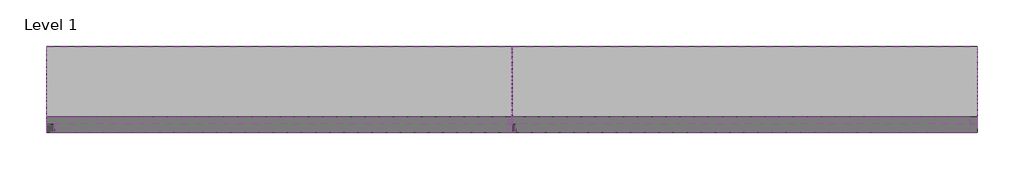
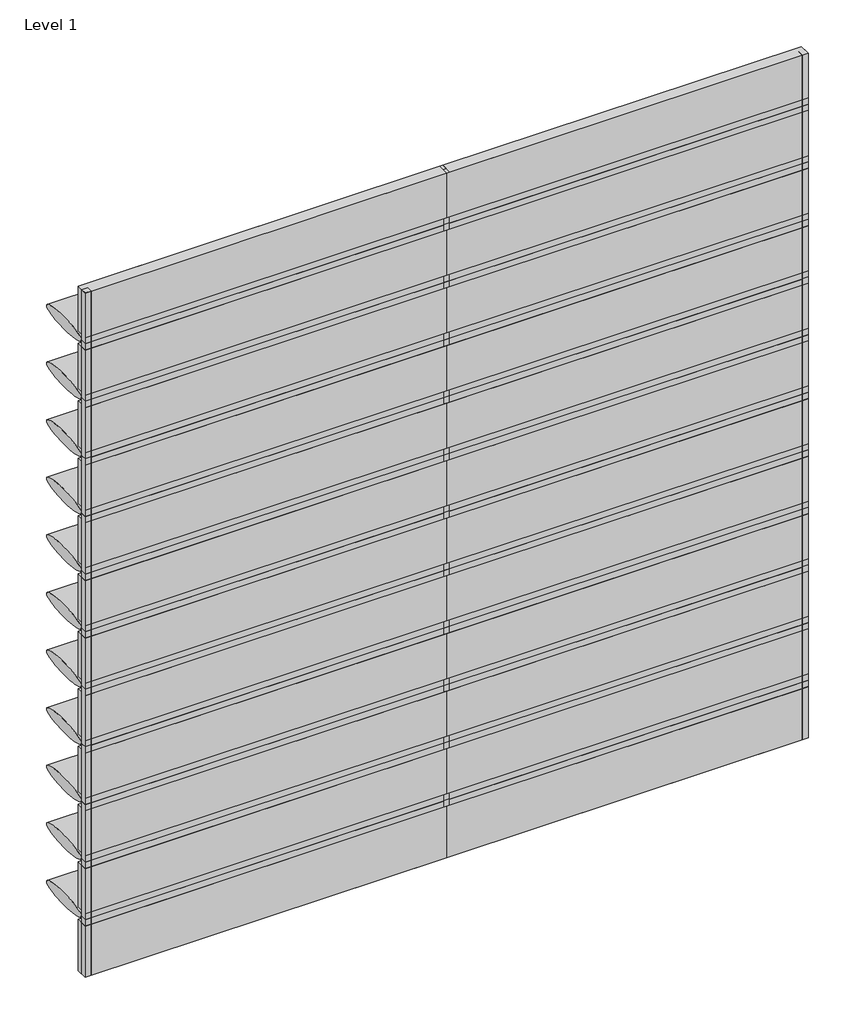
# One storey: 58 members, 48 plates.
"""IFC4 building model written with IfcOpenShell, lengths in millimetres."""

from ifc_helpers import new_model, si_unit, origin, place, context, project, spatial, transform, mapped, element, save
from components import rectangular_mullion_936fac8d, rectangular_mullion_058744f8, rectangular_mullion_f7ae43f3, rectangular_mullion_a2429558, rectangular_mullion_4e96f492, rectangular_mullion_4d54ce13, rectangular_mullion_fc1c4b0a, empty_system_panel_empty_1fdba460, empty_system_panel_empty_90f22c4b, empty_system_panel_empty_f2a78e4d, empty_system_panel_empty_441d4f81, empty_system_panel_empty_c037ad02

model = new_model("IFC4")

# Units and contexts
model_context = context("Model", 3, world=origin())
ifc_project = project(units=[si_unit("LENGTHUNIT", "METRE", prefix="MILLI")], contexts=[model_context])

# Site, building, storey
site = spatial("IfcSite", under=ifc_project)
building = spatial("IfcBuilding", under=site)
storey = spatial("IfcBuildingStorey", under=building, Name="Level 1", Elevation=0.0)

# Members
placement = place(None, origin())
rectangular_mullion_shape = rectangular_mullion_936fac8d(model_context)
element("IfcMember", 1, ObjectType="Rectangular Mullion : RSen_21_CWM_blade - wing 500 - 0° perforated_gen_duco projects", at=placement, inside=storey, context=model_context, shape_type="MappedRepresentation", body=[
    mapped(rectangular_mullion_shape, transform((3000.0, 3000.0, 505.0), x_axis=(0.0, 0.0, 1.0), y_axis=(0.0, 1.0, 0.0), z_axis=(-1.0, 0.0, 0.0))),
])
element("IfcMember", 2, ObjectType="Rectangular Mullion : RSen_21_CWM_blade - wing 500 - 0° perforated_gen_duco projects", at=placement, inside=storey, context=model_context, shape_type="MappedRepresentation", body=[
    mapped(rectangular_mullion_shape, transform((3000.0, 3000.0, 1010.0), x_axis=(0.0, 0.0, 1.0), y_axis=(0.0, 1.0, 0.0), z_axis=(-1.0, 0.0, 0.0))),
])
element("IfcMember", 3, ObjectType="Rectangular Mullion : RSen_21_CWM_blade - wing 500 - 0° perforated_gen_duco projects", at=placement, inside=storey, context=model_context, shape_type="MappedRepresentation", body=[
    mapped(rectangular_mullion_shape, transform((3000.0, 3000.0, 1515.0), x_axis=(0.0, 0.0, 1.0), y_axis=(0.0, 1.0, 0.0), z_axis=(-1.0, 0.0, 0.0))),
])
element("IfcMember", 4, ObjectType="Rectangular Mullion : RSen_21_CWM_blade - wing 500 - 0° perforated_gen_duco projects", at=placement, inside=storey, context=model_context, shape_type="MappedRepresentation", body=[
    mapped(rectangular_mullion_shape, transform((3000.0, 3000.0, 2020.0), x_axis=(0.0, 0.0, 1.0), y_axis=(0.0, 1.0, 0.0), z_axis=(-1.0, 0.0, 0.0))),
])
element("IfcMember", 5, ObjectType="Rectangular Mullion : RSen_21_CWM_blade - wing 500 - 0° perforated_gen_duco projects", at=placement, inside=storey, context=model_context, shape_type="MappedRepresentation", body=[
    mapped(rectangular_mullion_shape, transform((3000.0, 3000.0, 2525.0), x_axis=(0.0, 0.0, 1.0), y_axis=(0.0, 1.0, 0.0), z_axis=(-1.0, 0.0, 0.0))),
])
element("IfcMember", 6, ObjectType="Rectangular Mullion : RSen_21_CWM_blade - wing 500 - 0° perforated_gen_duco projects", at=placement, inside=storey, context=model_context, shape_type="MappedRepresentation", body=[
    mapped(rectangular_mullion_shape, transform((3000.0, 3000.0, 3030.0), x_axis=(0.0, 0.0, 1.0), y_axis=(0.0, 1.0, 0.0), z_axis=(-1.0, 0.0, 0.0))),
])
element("IfcMember", 7, ObjectType="Rectangular Mullion : RSen_21_CWM_blade - wing 500 - 0° perforated_gen_duco projects", at=placement, inside=storey, context=model_context, shape_type="MappedRepresentation", body=[
    mapped(rectangular_mullion_shape, transform((3000.0, 3000.0, 3535.0), x_axis=(0.0, 0.0, 1.0), y_axis=(0.0, 1.0, 0.0), z_axis=(-1.0, 0.0, 0.0))),
])
element("IfcMember", 8, ObjectType="Rectangular Mullion : RSen_21_CWM_blade - wing 500 - 0° perforated_gen_duco projects", at=placement, inside=storey, context=model_context, shape_type="MappedRepresentation", body=[
    mapped(rectangular_mullion_shape, transform((3000.0, 3000.0, 4040.0), x_axis=(0.0, 0.0, 1.0), y_axis=(0.0, 1.0, 0.0), z_axis=(-1.0, 0.0, 0.0))),
])
element("IfcMember", 9, ObjectType="Rectangular Mullion : RSen_21_CWM_blade - wing 500 - 0° perforated_gen_duco projects", at=placement, inside=storey, context=model_context, shape_type="MappedRepresentation", body=[
    mapped(rectangular_mullion_shape, transform((3000.0, 3000.0, 4545.0), x_axis=(0.0, 0.0, 1.0), y_axis=(0.0, 1.0, 0.0), z_axis=(-1.0, 0.0, 0.0))),
])
element("IfcMember", 10, ObjectType="Rectangular Mullion : RSen_21_CWM_blade - wing 500 - 0° perforated_gen_duco projects", at=placement, inside=storey, context=model_context, shape_type="MappedRepresentation", body=[
    mapped(rectangular_mullion_shape, transform((3000.0, 3000.0, 5050.0), x_axis=(0.0, 0.0, 1.0), y_axis=(0.0, 1.0, 0.0), z_axis=(-1.0, 0.0, 0.0))),
])
element("IfcMember", 11, ObjectType="Rectangular Mullion : RSen_21_CWM_blade - wing 500 - 0° perforated_gen_duco projects", at=placement, inside=storey, context=model_context, shape_type="MappedRepresentation", body=[
    mapped(rectangular_mullion_shape, transform((3000.0, 3000.0, 5555.0), x_axis=(0.0, 0.0, 1.0), y_axis=(0.0, 1.0, 0.0), z_axis=(-1.0, 0.0, 0.0))),
])
element("IfcMember", 12, ObjectType="Rectangular Mullion : RSen_21_CWM_blade - wing 500 - 0° perforated_gen_duco projects", at=placement, inside=storey, context=model_context, shape_type="MappedRepresentation", body=[
    mapped(rectangular_mullion_shape, transform((0.0, 3000.0, 505.0), x_axis=(0.0, 0.0, 1.0), y_axis=(0.0, 1.0, 0.0), z_axis=(-1.0, 0.0, 0.0))),
])
element("IfcMember", 13, ObjectType="Rectangular Mullion : RSen_21_CWM_blade - wing 500 - 0° perforated_gen_duco projects", at=placement, inside=storey, context=model_context, shape_type="MappedRepresentation", body=[
    mapped(rectangular_mullion_shape, transform((0.0, 3000.0, 1010.0), x_axis=(0.0, 0.0, 1.0), y_axis=(0.0, 1.0, 0.0), z_axis=(-1.0, 0.0, 0.0))),
])
element("IfcMember", 14, ObjectType="Rectangular Mullion : RSen_21_CWM_blade - wing 500 - 0° perforated_gen_duco projects", at=placement, inside=storey, context=model_context, shape_type="MappedRepresentation", body=[
    mapped(rectangular_mullion_shape, transform((0.0, 3000.0, 1515.0), x_axis=(0.0, 0.0, 1.0), y_axis=(0.0, 1.0, 0.0), z_axis=(-1.0, 0.0, 0.0))),
])
element("IfcMember", 15, ObjectType="Rectangular Mullion : RSen_21_CWM_blade - wing 500 - 0° perforated_gen_duco projects", at=placement, inside=storey, context=model_context, shape_type="MappedRepresentation", body=[
    mapped(rectangular_mullion_shape, transform((0.0, 3000.0, 2020.0), x_axis=(0.0, 0.0, 1.0), y_axis=(0.0, 1.0, 0.0), z_axis=(-1.0, 0.0, 0.0))),
])
element("IfcMember", 16, ObjectType="Rectangular Mullion : RSen_21_CWM_blade - wing 500 - 0° perforated_gen_duco projects", at=placement, inside=storey, context=model_context, shape_type="MappedRepresentation", body=[
    mapped(rectangular_mullion_shape, transform((0.0, 3000.0, 2525.0), x_axis=(0.0, 0.0, 1.0), y_axis=(0.0, 1.0, 0.0), z_axis=(-1.0, 0.0, 0.0))),
])
element("IfcMember", 17, ObjectType="Rectangular Mullion : RSen_21_CWM_blade - wing 500 - 0° perforated_gen_duco projects", at=placement, inside=storey, context=model_context, shape_type="MappedRepresentation", body=[
    mapped(rectangular_mullion_shape, transform((0.0, 3000.0, 3030.0), x_axis=(0.0, 0.0, 1.0), y_axis=(0.0, 1.0, 0.0), z_axis=(-1.0, 0.0, 0.0))),
])
element("IfcMember", 18, ObjectType="Rectangular Mullion : RSen_21_CWM_blade - wing 500 - 0° perforated_gen_duco projects", at=placement, inside=storey, context=model_context, shape_type="MappedRepresentation", body=[
    mapped(rectangular_mullion_shape, transform((0.0, 3000.0, 3535.0), x_axis=(0.0, 0.0, 1.0), y_axis=(0.0, 1.0, 0.0), z_axis=(-1.0, 0.0, 0.0))),
])
element("IfcMember", 19, ObjectType="Rectangular Mullion : RSen_21_CWM_blade - wing 500 - 0° perforated_gen_duco projects", at=placement, inside=storey, context=model_context, shape_type="MappedRepresentation", body=[
    mapped(rectangular_mullion_shape, transform((0.0, 3000.0, 4040.0), x_axis=(0.0, 0.0, 1.0), y_axis=(0.0, 1.0, 0.0), z_axis=(-1.0, 0.0, 0.0))),
])
element("IfcMember", 20, ObjectType="Rectangular Mullion : RSen_21_CWM_blade - wing 500 - 0° perforated_gen_duco projects", at=placement, inside=storey, context=model_context, shape_type="MappedRepresentation", body=[
    mapped(rectangular_mullion_shape, transform((0.0, 3000.0, 4545.0), x_axis=(0.0, 0.0, 1.0), y_axis=(0.0, 1.0, 0.0), z_axis=(-1.0, 0.0, 0.0))),
])
element("IfcMember", 21, ObjectType="Rectangular Mullion : RSen_21_CWM_blade - wing 500 - 0° perforated_gen_duco projects", at=placement, inside=storey, context=model_context, shape_type="MappedRepresentation", body=[
    mapped(rectangular_mullion_shape, transform((0.0, 3000.0, 5050.0), x_axis=(0.0, 0.0, 1.0), y_axis=(0.0, 1.0, 0.0), z_axis=(-1.0, 0.0, 0.0))),
])
element("IfcMember", 22, ObjectType="Rectangular Mullion : RSen_21_CWM_blade - wing 500 - 0° perforated_gen_duco projects", at=placement, inside=storey, context=model_context, shape_type="MappedRepresentation", body=[
    mapped(rectangular_mullion_shape, transform((0.0, 3000.0, 5555.0), x_axis=(0.0, 0.0, 1.0), y_axis=(0.0, 1.0, 0.0), z_axis=(-1.0, 0.0, 0.0))),
])
rectangular_mullion_2_shape = rectangular_mullion_058744f8(model_context)
element("IfcMember", 23, ObjectType="Rectangular Mullion : RSen_21_CWM_support profile 50x50_gen_duco projects", at=placement, inside=storey, context=model_context, shape_type="MappedRepresentation", body=[
    mapped(rectangular_mullion_2_shape, transform((3000.0, 3000.0, 0.0), x_axis=(-1.0, 0.0, 0.0), y_axis=(0.0, 1.0, 0.0), z_axis=(0.0, 0.0, -1.0))),
])
element("IfcMember", 24, ObjectType="Rectangular Mullion : RSen_21_CWM_support profile 50x50_gen_duco projects", at=placement, inside=storey, context=model_context, shape_type="MappedRepresentation", body=[
    mapped(rectangular_mullion_2_shape, transform((3000.0, 3000.0, 505.0), x_axis=(-1.0, 0.0, 0.0), y_axis=(0.0, 1.0, 0.0), z_axis=(0.0, 0.0, -1.0))),
])
element("IfcMember", 25, ObjectType="Rectangular Mullion : RSen_21_CWM_support profile 50x50_gen_duco projects", at=placement, inside=storey, context=model_context, shape_type="MappedRepresentation", body=[
    mapped(rectangular_mullion_2_shape, transform((3000.0, 3000.0, 1010.0), x_axis=(-1.0, 0.0, 0.0), y_axis=(0.0, 1.0, 0.0), z_axis=(0.0, 0.0, -1.0))),
])
element("IfcMember", 26, ObjectType="Rectangular Mullion : RSen_21_CWM_support profile 50x50_gen_duco projects", at=placement, inside=storey, context=model_context, shape_type="MappedRepresentation", body=[
    mapped(rectangular_mullion_2_shape, transform((3000.0, 3000.0, 1515.0), x_axis=(-1.0, 0.0, 0.0), y_axis=(0.0, 1.0, 0.0), z_axis=(0.0, 0.0, -1.0))),
])
element("IfcMember", 27, ObjectType="Rectangular Mullion : RSen_21_CWM_support profile 50x50_gen_duco projects", at=placement, inside=storey, context=model_context, shape_type="MappedRepresentation", body=[
    mapped(rectangular_mullion_2_shape, transform((3000.0, 3000.0, 2020.0), x_axis=(-1.0, 0.0, 0.0), y_axis=(0.0, 1.0, 0.0), z_axis=(0.0, 0.0, -1.0))),
])
element("IfcMember", 28, ObjectType="Rectangular Mullion : RSen_21_CWM_support profile 50x50_gen_duco projects", at=placement, inside=storey, context=model_context, shape_type="MappedRepresentation", body=[
    mapped(rectangular_mullion_2_shape, transform((3000.0, 3000.0, 2525.0), x_axis=(-1.0, 0.0, 0.0), y_axis=(0.0, 1.0, 0.0), z_axis=(0.0, 0.0, -1.0))),
])
element("IfcMember", 29, ObjectType="Rectangular Mullion : RSen_21_CWM_support profile 50x50_gen_duco projects", at=placement, inside=storey, context=model_context, shape_type="MappedRepresentation", body=[
    mapped(rectangular_mullion_2_shape, transform((3000.0, 3000.0, 3030.0), x_axis=(-1.0, 0.0, 0.0), y_axis=(0.0, 1.0, 0.0), z_axis=(0.0, 0.0, -1.0))),
])
element("IfcMember", 30, ObjectType="Rectangular Mullion : RSen_21_CWM_support profile 50x50_gen_duco projects", at=placement, inside=storey, context=model_context, shape_type="MappedRepresentation", body=[
    mapped(rectangular_mullion_2_shape, transform((3000.0, 3000.0, 3535.0), x_axis=(-1.0, 0.0, 0.0), y_axis=(0.0, 1.0, 0.0), z_axis=(0.0, 0.0, -1.0))),
])
element("IfcMember", 31, ObjectType="Rectangular Mullion : RSen_21_CWM_support profile 50x50_gen_duco projects", at=placement, inside=storey, context=model_context, shape_type="MappedRepresentation", body=[
    mapped(rectangular_mullion_2_shape, transform((3000.0, 3000.0, 4040.0), x_axis=(-1.0, 0.0, 0.0), y_axis=(0.0, 1.0, 0.0), z_axis=(0.0, 0.0, -1.0))),
])
element("IfcMember", 32, ObjectType="Rectangular Mullion : RSen_21_CWM_support profile 50x50_gen_duco projects", at=placement, inside=storey, context=model_context, shape_type="MappedRepresentation", body=[
    mapped(rectangular_mullion_2_shape, transform((3000.0, 3000.0, 4545.0), x_axis=(-1.0, 0.0, 0.0), y_axis=(0.0, 1.0, 0.0), z_axis=(0.0, 0.0, -1.0))),
])
element("IfcMember", 33, ObjectType="Rectangular Mullion : RSen_21_CWM_support profile 50x50_gen_duco projects", at=placement, inside=storey, context=model_context, shape_type="MappedRepresentation", body=[
    mapped(rectangular_mullion_2_shape, transform((3000.0, 3000.0, 5050.0), x_axis=(-1.0, 0.0, 0.0), y_axis=(0.0, 1.0, 0.0), z_axis=(0.0, 0.0, -1.0))),
])
rectangular_mullion_3_shape = rectangular_mullion_f7ae43f3(model_context)
element("IfcMember", 34, ObjectType="Rectangular Mullion : RSen_21_CWM_support profile 50x50_gen_duco projects", at=placement, inside=storey, context=model_context, shape_type="MappedRepresentation", body=[
    mapped(rectangular_mullion_3_shape, transform((3000.0, 3000.0, 5555.0), x_axis=(-1.0, 0.0, 0.0), y_axis=(0.0, 1.0, 0.0), z_axis=(0.0, 0.0, -1.0))),
])
rectangular_mullion_4_shape = rectangular_mullion_a2429558(model_context)
element("IfcMember", 35, ObjectType="Rectangular Mullion : RSen_21_CWM_support profile 50x50 - left_gen_duco projects", at=placement, inside=storey, context=model_context, shape_type="MappedRepresentation", body=[
    mapped(rectangular_mullion_4_shape, transform((0.0, 3000.0, 0.0), x_axis=(-1.0, 0.0, 0.0), y_axis=(0.0, 1.0, 0.0), z_axis=(0.0, 0.0, -1.0))),
])
rectangular_mullion_5_shape = rectangular_mullion_4e96f492(model_context)
element("IfcMember", 36, ObjectType="Rectangular Mullion : RSen_21_CWM_support profile 50x50 - right_gen_duco projects", at=placement, inside=storey, context=model_context, shape_type="MappedRepresentation", body=[
    mapped(rectangular_mullion_5_shape, transform((6000.0, 3000.0, 6000.0), x_axis=(1.0, 0.0, 0.0), y_axis=(0.0, 1.0, 0.0), z_axis=(0.0, 0.0, 1.0))),
])
element("IfcMember", 37, ObjectType="Rectangular Mullion : RSen_21_CWM_support profile 50x50 - left_gen_duco projects", at=placement, inside=storey, context=model_context, shape_type="MappedRepresentation", body=[
    mapped(rectangular_mullion_4_shape, transform((0.0, 3000.0, 505.0), x_axis=(-1.0, 0.0, 0.0), y_axis=(0.0, 1.0, 0.0), z_axis=(0.0, 0.0, -1.0))),
])
element("IfcMember", 38, ObjectType="Rectangular Mullion : RSen_21_CWM_support profile 50x50 - left_gen_duco projects", at=placement, inside=storey, context=model_context, shape_type="MappedRepresentation", body=[
    mapped(rectangular_mullion_4_shape, transform((0.0, 3000.0, 1010.0), x_axis=(-1.0, 0.0, 0.0), y_axis=(0.0, 1.0, 0.0), z_axis=(0.0, 0.0, -1.0))),
])
element("IfcMember", 39, ObjectType="Rectangular Mullion : RSen_21_CWM_support profile 50x50 - left_gen_duco projects", at=placement, inside=storey, context=model_context, shape_type="MappedRepresentation", body=[
    mapped(rectangular_mullion_4_shape, transform((0.0, 3000.0, 1515.0), x_axis=(-1.0, 0.0, 0.0), y_axis=(0.0, 1.0, 0.0), z_axis=(0.0, 0.0, -1.0))),
])
element("IfcMember", 40, ObjectType="Rectangular Mullion : RSen_21_CWM_support profile 50x50 - left_gen_duco projects", at=placement, inside=storey, context=model_context, shape_type="MappedRepresentation", body=[
    mapped(rectangular_mullion_4_shape, transform((0.0, 3000.0, 2020.0), x_axis=(-1.0, 0.0, 0.0), y_axis=(0.0, 1.0, 0.0), z_axis=(0.0, 0.0, -1.0))),
])
element("IfcMember", 41, ObjectType="Rectangular Mullion : RSen_21_CWM_support profile 50x50 - left_gen_duco projects", at=placement, inside=storey, context=model_context, shape_type="MappedRepresentation", body=[
    mapped(rectangular_mullion_4_shape, transform((0.0, 3000.0, 2525.0), x_axis=(-1.0, 0.0, 0.0), y_axis=(0.0, 1.0, 0.0), z_axis=(0.0, 0.0, -1.0))),
])
element("IfcMember", 42, ObjectType="Rectangular Mullion : RSen_21_CWM_support profile 50x50 - left_gen_duco projects", at=placement, inside=storey, context=model_context, shape_type="MappedRepresentation", body=[
    mapped(rectangular_mullion_4_shape, transform((0.0, 3000.0, 3030.0), x_axis=(-1.0, 0.0, 0.0), y_axis=(0.0, 1.0, 0.0), z_axis=(0.0, 0.0, -1.0))),
])
element("IfcMember", 43, ObjectType="Rectangular Mullion : RSen_21_CWM_support profile 50x50 - left_gen_duco projects", at=placement, inside=storey, context=model_context, shape_type="MappedRepresentation", body=[
    mapped(rectangular_mullion_4_shape, transform((0.0, 3000.0, 3535.0), x_axis=(-1.0, 0.0, 0.0), y_axis=(0.0, 1.0, 0.0), z_axis=(0.0, 0.0, -1.0))),
])
element("IfcMember", 44, ObjectType="Rectangular Mullion : RSen_21_CWM_support profile 50x50 - left_gen_duco projects", at=placement, inside=storey, context=model_context, shape_type="MappedRepresentation", body=[
    mapped(rectangular_mullion_4_shape, transform((0.0, 3000.0, 4040.0), x_axis=(-1.0, 0.0, 0.0), y_axis=(0.0, 1.0, 0.0), z_axis=(0.0, 0.0, -1.0))),
])
element("IfcMember", 45, ObjectType="Rectangular Mullion : RSen_21_CWM_support profile 50x50 - left_gen_duco projects", at=placement, inside=storey, context=model_context, shape_type="MappedRepresentation", body=[
    mapped(rectangular_mullion_4_shape, transform((0.0, 3000.0, 4545.0), x_axis=(-1.0, 0.0, 0.0), y_axis=(0.0, 1.0, 0.0), z_axis=(0.0, 0.0, -1.0))),
])
element("IfcMember", 46, ObjectType="Rectangular Mullion : RSen_21_CWM_support profile 50x50 - left_gen_duco projects", at=placement, inside=storey, context=model_context, shape_type="MappedRepresentation", body=[
    mapped(rectangular_mullion_4_shape, transform((0.0, 3000.0, 5050.0), x_axis=(-1.0, 0.0, 0.0), y_axis=(0.0, 1.0, 0.0), z_axis=(0.0, 0.0, -1.0))),
])
rectangular_mullion_6_shape = rectangular_mullion_4d54ce13(model_context)
element("IfcMember", 47, ObjectType="Rectangular Mullion : RSen_21_CWM_support profile 50x50 - left_gen_duco projects", at=placement, inside=storey, context=model_context, shape_type="MappedRepresentation", body=[
    mapped(rectangular_mullion_6_shape, transform((0.0, 3000.0, 5555.0), x_axis=(-1.0, 0.0, 0.0), y_axis=(0.0, 1.0, 0.0), z_axis=(0.0, 0.0, -1.0))),
])
rectangular_mullion_7_shape = rectangular_mullion_fc1c4b0a(model_context)
element("IfcMember", 48, ObjectType="Rectangular Mullion : RSen_21_CWM_support profile 50x50 - right_gen_duco projects", at=placement, inside=storey, context=model_context, shape_type="MappedRepresentation", body=[
    mapped(rectangular_mullion_7_shape, transform((6000.0, 3000.0, 505.0), x_axis=(1.0, 0.0, 0.0), y_axis=(0.0, 1.0, 0.0), z_axis=(0.0, 0.0, 1.0))),
])
element("IfcMember", 49, ObjectType="Rectangular Mullion : RSen_21_CWM_support profile 50x50 - right_gen_duco projects", at=placement, inside=storey, context=model_context, shape_type="MappedRepresentation", body=[
    mapped(rectangular_mullion_7_shape, transform((6000.0, 3000.0, 1010.0), x_axis=(1.0, 0.0, 0.0), y_axis=(0.0, 1.0, 0.0), z_axis=(0.0, 0.0, 1.0))),
])
element("IfcMember", 50, ObjectType="Rectangular Mullion : RSen_21_CWM_support profile 50x50 - right_gen_duco projects", at=placement, inside=storey, context=model_context, shape_type="MappedRepresentation", body=[
    mapped(rectangular_mullion_7_shape, transform((6000.0, 3000.0, 1515.0), x_axis=(1.0, 0.0, 0.0), y_axis=(0.0, 1.0, 0.0), z_axis=(0.0, 0.0, 1.0))),
])
element("IfcMember", 51, ObjectType="Rectangular Mullion : RSen_21_CWM_support profile 50x50 - right_gen_duco projects", at=placement, inside=storey, context=model_context, shape_type="MappedRepresentation", body=[
    mapped(rectangular_mullion_7_shape, transform((6000.0, 3000.0, 2020.0), x_axis=(1.0, 0.0, 0.0), y_axis=(0.0, 1.0, 0.0), z_axis=(0.0, 0.0, 1.0))),
])
element("IfcMember", 52, ObjectType="Rectangular Mullion : RSen_21_CWM_support profile 50x50 - right_gen_duco projects", at=placement, inside=storey, context=model_context, shape_type="MappedRepresentation", body=[
    mapped(rectangular_mullion_7_shape, transform((6000.0, 3000.0, 2525.0), x_axis=(1.0, 0.0, 0.0), y_axis=(0.0, 1.0, 0.0), z_axis=(0.0, 0.0, 1.0))),
])
element("IfcMember", 53, ObjectType="Rectangular Mullion : RSen_21_CWM_support profile 50x50 - right_gen_duco projects", at=placement, inside=storey, context=model_context, shape_type="MappedRepresentation", body=[
    mapped(rectangular_mullion_7_shape, transform((6000.0, 3000.0, 3030.0), x_axis=(1.0, 0.0, 0.0), y_axis=(0.0, 1.0, 0.0), z_axis=(0.0, 0.0, 1.0))),
])
element("IfcMember", 54, ObjectType="Rectangular Mullion : RSen_21_CWM_support profile 50x50 - right_gen_duco projects", at=placement, inside=storey, context=model_context, shape_type="MappedRepresentation", body=[
    mapped(rectangular_mullion_7_shape, transform((6000.0, 3000.0, 3535.0), x_axis=(1.0, 0.0, 0.0), y_axis=(0.0, 1.0, 0.0), z_axis=(0.0, 0.0, 1.0))),
])
element("IfcMember", 55, ObjectType="Rectangular Mullion : RSen_21_CWM_support profile 50x50 - right_gen_duco projects", at=placement, inside=storey, context=model_context, shape_type="MappedRepresentation", body=[
    mapped(rectangular_mullion_7_shape, transform((6000.0, 3000.0, 4040.0), x_axis=(1.0, 0.0, 0.0), y_axis=(0.0, 1.0, 0.0), z_axis=(0.0, 0.0, 1.0))),
])
element("IfcMember", 56, ObjectType="Rectangular Mullion : RSen_21_CWM_support profile 50x50 - right_gen_duco projects", at=placement, inside=storey, context=model_context, shape_type="MappedRepresentation", body=[
    mapped(rectangular_mullion_7_shape, transform((6000.0, 3000.0, 4545.0), x_axis=(1.0, 0.0, 0.0), y_axis=(0.0, 1.0, 0.0), z_axis=(0.0, 0.0, 1.0))),
])
element("IfcMember", 57, ObjectType="Rectangular Mullion : RSen_21_CWM_support profile 50x50 - right_gen_duco projects", at=placement, inside=storey, context=model_context, shape_type="MappedRepresentation", body=[
    mapped(rectangular_mullion_7_shape, transform((6000.0, 3000.0, 5050.0), x_axis=(1.0, 0.0, 0.0), y_axis=(0.0, 1.0, 0.0), z_axis=(0.0, 0.0, 1.0))),
])
element("IfcMember", 58, ObjectType="Rectangular Mullion : RSen_21_CWM_support profile 50x50 - right_gen_duco projects", at=placement, inside=storey, context=model_context, shape_type="MappedRepresentation", body=[
    mapped(rectangular_mullion_7_shape, transform((6000.0, 3000.0, 5555.0), x_axis=(1.0, 0.0, 0.0), y_axis=(0.0, 1.0, 0.0), z_axis=(0.0, 0.0, 1.0))),
])

# Plates
empty_system_panel_empty_shape = empty_system_panel_empty_1fdba460(model_context)
element("IfcPlate", 59, ObjectType="Empty System Panel : Empty", at=placement, inside=storey, context=model_context, shape_type="MappedRepresentation", body=[
    mapped(empty_system_panel_empty_shape, transform((4500.0, 3000.0, 0.0), x_axis=(-1.0, 0.0, 0.0), y_axis=(0.0, -1.0, 0.0), z_axis=(0.0, 0.0, 1.0))),
])
element("IfcPlate", 60, ObjectType="Empty System Panel : Empty", at=placement, inside=storey, context=model_context, shape_type="MappedRepresentation", body=[
    mapped(empty_system_panel_empty_shape, transform((1500.0, 3000.0, 0.0), x_axis=(-1.0, 0.0, 0.0), y_axis=(0.0, -1.0, 0.0), z_axis=(0.0, 0.0, 1.0))),
])
empty_system_panel_empty_2_shape = empty_system_panel_empty_90f22c4b(model_context)
element("IfcPlate", 61, ObjectType="Empty System Panel : Empty", at=placement, inside=storey, context=model_context, shape_type="MappedRepresentation", body=[
    mapped(empty_system_panel_empty_2_shape, transform((4500.0, 3000.0, 560.0), x_axis=(-1.0, 0.0, 0.0), y_axis=(0.0, -1.0, 0.0), z_axis=(0.0, 0.0, 1.0))),
])
element("IfcPlate", 62, ObjectType="Empty System Panel : Empty", at=placement, inside=storey, context=model_context, shape_type="MappedRepresentation", body=[
    mapped(empty_system_panel_empty_2_shape, transform((1500.0, 3000.0, 560.0), x_axis=(-1.0, 0.0, 0.0), y_axis=(0.0, -1.0, 0.0), z_axis=(0.0, 0.0, 1.0))),
])
element("IfcPlate", 63, ObjectType="Empty System Panel : Empty", at=placement, inside=storey, context=model_context, shape_type="MappedRepresentation", body=[
    mapped(empty_system_panel_empty_2_shape, transform((4500.0, 3000.0, 1065.0), x_axis=(-1.0, 0.0, 0.0), y_axis=(0.0, -1.0, 0.0), z_axis=(0.0, 0.0, 1.0))),
])
element("IfcPlate", 64, ObjectType="Empty System Panel : Empty", at=placement, inside=storey, context=model_context, shape_type="MappedRepresentation", body=[
    mapped(empty_system_panel_empty_2_shape, transform((1500.0, 3000.0, 1065.0), x_axis=(-1.0, 0.0, 0.0), y_axis=(0.0, -1.0, 0.0), z_axis=(0.0, 0.0, 1.0))),
])
element("IfcPlate", 65, ObjectType="Empty System Panel : Empty", at=placement, inside=storey, context=model_context, shape_type="MappedRepresentation", body=[
    mapped(empty_system_panel_empty_2_shape, transform((4500.0, 3000.0, 1570.0), x_axis=(-1.0, 0.0, 0.0), y_axis=(0.0, -1.0, 0.0), z_axis=(0.0, 0.0, 1.0))),
])
element("IfcPlate", 66, ObjectType="Empty System Panel : Empty", at=placement, inside=storey, context=model_context, shape_type="MappedRepresentation", body=[
    mapped(empty_system_panel_empty_2_shape, transform((1500.0, 3000.0, 1570.0), x_axis=(-1.0, 0.0, 0.0), y_axis=(0.0, -1.0, 0.0), z_axis=(0.0, 0.0, 1.0))),
])
element("IfcPlate", 67, ObjectType="Empty System Panel : Empty", at=placement, inside=storey, context=model_context, shape_type="MappedRepresentation", body=[
    mapped(empty_system_panel_empty_2_shape, transform((4500.0, 3000.0, 2075.0), x_axis=(-1.0, 0.0, 0.0), y_axis=(0.0, -1.0, 0.0), z_axis=(0.0, 0.0, 1.0))),
])
element("IfcPlate", 68, ObjectType="Empty System Panel : Empty", at=placement, inside=storey, context=model_context, shape_type="MappedRepresentation", body=[
    mapped(empty_system_panel_empty_2_shape, transform((1500.0, 3000.0, 2075.0), x_axis=(-1.0, 0.0, 0.0), y_axis=(0.0, -1.0, 0.0), z_axis=(0.0, 0.0, 1.0))),
])
element("IfcPlate", 69, ObjectType="Empty System Panel : Empty", at=placement, inside=storey, context=model_context, shape_type="MappedRepresentation", body=[
    mapped(empty_system_panel_empty_2_shape, transform((4500.0, 3000.0, 2580.0), x_axis=(-1.0, 0.0, 0.0), y_axis=(0.0, -1.0, 0.0), z_axis=(0.0, 0.0, 1.0))),
])
element("IfcPlate", 70, ObjectType="Empty System Panel : Empty", at=placement, inside=storey, context=model_context, shape_type="MappedRepresentation", body=[
    mapped(empty_system_panel_empty_2_shape, transform((1500.0, 3000.0, 2580.0), x_axis=(-1.0, 0.0, 0.0), y_axis=(0.0, -1.0, 0.0), z_axis=(0.0, 0.0, 1.0))),
])
element("IfcPlate", 71, ObjectType="Empty System Panel : Empty", at=placement, inside=storey, context=model_context, shape_type="MappedRepresentation", body=[
    mapped(empty_system_panel_empty_2_shape, transform((4500.0, 3000.0, 3085.0), x_axis=(-1.0, 0.0, 0.0), y_axis=(0.0, -1.0, 0.0), z_axis=(0.0, 0.0, 1.0))),
])
element("IfcPlate", 72, ObjectType="Empty System Panel : Empty", at=placement, inside=storey, context=model_context, shape_type="MappedRepresentation", body=[
    mapped(empty_system_panel_empty_2_shape, transform((1500.0, 3000.0, 3085.0), x_axis=(-1.0, 0.0, 0.0), y_axis=(0.0, -1.0, 0.0), z_axis=(0.0, 0.0, 1.0))),
])
element("IfcPlate", 73, ObjectType="Empty System Panel : Empty", at=placement, inside=storey, context=model_context, shape_type="MappedRepresentation", body=[
    mapped(empty_system_panel_empty_2_shape, transform((4500.0, 3000.0, 3590.0), x_axis=(-1.0, 0.0, 0.0), y_axis=(0.0, -1.0, 0.0), z_axis=(0.0, 0.0, 1.0))),
])
element("IfcPlate", 74, ObjectType="Empty System Panel : Empty", at=placement, inside=storey, context=model_context, shape_type="MappedRepresentation", body=[
    mapped(empty_system_panel_empty_2_shape, transform((1500.0, 3000.0, 3590.0), x_axis=(-1.0, 0.0, 0.0), y_axis=(0.0, -1.0, 0.0), z_axis=(0.0, 0.0, 1.0))),
])
element("IfcPlate", 75, ObjectType="Empty System Panel : Empty", at=placement, inside=storey, context=model_context, shape_type="MappedRepresentation", body=[
    mapped(empty_system_panel_empty_2_shape, transform((4500.0, 3000.0, 4095.0), x_axis=(-1.0, 0.0, 0.0), y_axis=(0.0, -1.0, 0.0), z_axis=(0.0, 0.0, 1.0))),
])
element("IfcPlate", 76, ObjectType="Empty System Panel : Empty", at=placement, inside=storey, context=model_context, shape_type="MappedRepresentation", body=[
    mapped(empty_system_panel_empty_2_shape, transform((1500.0, 3000.0, 4095.0), x_axis=(-1.0, 0.0, 0.0), y_axis=(0.0, -1.0, 0.0), z_axis=(0.0, 0.0, 1.0))),
])
element("IfcPlate", 77, ObjectType="Empty System Panel : Empty", at=placement, inside=storey, context=model_context, shape_type="MappedRepresentation", body=[
    mapped(empty_system_panel_empty_2_shape, transform((4500.0, 3000.0, 4600.0), x_axis=(-1.0, 0.0, 0.0), y_axis=(0.0, -1.0, 0.0), z_axis=(0.0, 0.0, 1.0))),
])
element("IfcPlate", 78, ObjectType="Empty System Panel : Empty", at=placement, inside=storey, context=model_context, shape_type="MappedRepresentation", body=[
    mapped(empty_system_panel_empty_2_shape, transform((1500.0, 3000.0, 4600.0), x_axis=(-1.0, 0.0, 0.0), y_axis=(0.0, -1.0, 0.0), z_axis=(0.0, 0.0, 1.0))),
])
element("IfcPlate", 79, ObjectType="Empty System Panel : Empty", at=placement, inside=storey, context=model_context, shape_type="MappedRepresentation", body=[
    mapped(empty_system_panel_empty_2_shape, transform((4500.0, 3000.0, 5105.0), x_axis=(-1.0, 0.0, 0.0), y_axis=(0.0, -1.0, 0.0), z_axis=(0.0, 0.0, 1.0))),
])
element("IfcPlate", 80, ObjectType="Empty System Panel : Empty", at=placement, inside=storey, context=model_context, shape_type="MappedRepresentation", body=[
    mapped(empty_system_panel_empty_2_shape, transform((1500.0, 3000.0, 5105.0), x_axis=(-1.0, 0.0, 0.0), y_axis=(0.0, -1.0, 0.0), z_axis=(0.0, 0.0, 1.0))),
])
empty_system_panel_empty_3_shape = empty_system_panel_empty_f2a78e4d(model_context)
element("IfcPlate", 81, ObjectType="Empty System Panel : Empty", at=placement, inside=storey, context=model_context, shape_type="MappedRepresentation", body=[
    mapped(empty_system_panel_empty_3_shape, transform((4500.0, 3000.0, 5610.0), x_axis=(-1.0, 0.0, 0.0), y_axis=(0.0, -1.0, 0.0), z_axis=(0.0, 0.0, 1.0))),
])
element("IfcPlate", 82, ObjectType="Empty System Panel : Empty", at=placement, inside=storey, context=model_context, shape_type="MappedRepresentation", body=[
    mapped(empty_system_panel_empty_3_shape, transform((1500.0, 3000.0, 5610.0), x_axis=(-1.0, 0.0, 0.0), y_axis=(0.0, -1.0, 0.0), z_axis=(0.0, 0.0, 1.0))),
])
empty_system_panel_empty_4_shape = empty_system_panel_empty_441d4f81(model_context)
element("IfcPlate", 83, ObjectType="Empty System Panel : Empty", at=placement, inside=storey, context=model_context, shape_type="MappedRepresentation", body=[
    mapped(empty_system_panel_empty_4_shape, transform((4487.5, 3000.0, 0.0), x_axis=(-1.0, 0.0, 0.0), y_axis=(0.0, -1.0, 0.0), z_axis=(0.0, 0.0, 1.0))),
])
element("IfcPlate", 84, ObjectType="Empty System Panel : Empty", at=placement, inside=storey, context=model_context, shape_type="MappedRepresentation", body=[
    mapped(empty_system_panel_empty_4_shape, transform((1512.5, 3000.0, 0.0), x_axis=(-1.0, 0.0, 0.0), y_axis=(0.0, -1.0, 0.0), z_axis=(0.0, 0.0, 1.0))),
])
element("IfcPlate", 85, ObjectType="Empty System Panel : Empty", at=placement, inside=storey, context=model_context, shape_type="MappedRepresentation", body=[
    mapped(empty_system_panel_empty_4_shape, transform((4487.5, 3000.0, 505.0), x_axis=(-1.0, 0.0, 0.0), y_axis=(0.0, -1.0, 0.0), z_axis=(0.0, 0.0, 1.0))),
])
element("IfcPlate", 86, ObjectType="Empty System Panel : Empty", at=placement, inside=storey, context=model_context, shape_type="MappedRepresentation", body=[
    mapped(empty_system_panel_empty_4_shape, transform((1512.5, 3000.0, 505.0), x_axis=(-1.0, 0.0, 0.0), y_axis=(0.0, -1.0, 0.0), z_axis=(0.0, 0.0, 1.0))),
])
element("IfcPlate", 87, ObjectType="Empty System Panel : Empty", at=placement, inside=storey, context=model_context, shape_type="MappedRepresentation", body=[
    mapped(empty_system_panel_empty_4_shape, transform((4487.5, 3000.0, 1010.0), x_axis=(-1.0, 0.0, 0.0), y_axis=(0.0, -1.0, 0.0), z_axis=(0.0, 0.0, 1.0))),
])
element("IfcPlate", 88, ObjectType="Empty System Panel : Empty", at=placement, inside=storey, context=model_context, shape_type="MappedRepresentation", body=[
    mapped(empty_system_panel_empty_4_shape, transform((1512.5, 3000.0, 1010.0), x_axis=(-1.0, 0.0, 0.0), y_axis=(0.0, -1.0, 0.0), z_axis=(0.0, 0.0, 1.0))),
])
element("IfcPlate", 89, ObjectType="Empty System Panel : Empty", at=placement, inside=storey, context=model_context, shape_type="MappedRepresentation", body=[
    mapped(empty_system_panel_empty_4_shape, transform((4487.5, 3000.0, 1515.0), x_axis=(-1.0, 0.0, 0.0), y_axis=(0.0, -1.0, 0.0), z_axis=(0.0, 0.0, 1.0))),
])
element("IfcPlate", 90, ObjectType="Empty System Panel : Empty", at=placement, inside=storey, context=model_context, shape_type="MappedRepresentation", body=[
    mapped(empty_system_panel_empty_4_shape, transform((1512.5, 3000.0, 1515.0), x_axis=(-1.0, 0.0, 0.0), y_axis=(0.0, -1.0, 0.0), z_axis=(0.0, 0.0, 1.0))),
])
element("IfcPlate", 91, ObjectType="Empty System Panel : Empty", at=placement, inside=storey, context=model_context, shape_type="MappedRepresentation", body=[
    mapped(empty_system_panel_empty_4_shape, transform((4487.5, 3000.0, 2020.0), x_axis=(-1.0, 0.0, 0.0), y_axis=(0.0, -1.0, 0.0), z_axis=(0.0, 0.0, 1.0))),
])
element("IfcPlate", 92, ObjectType="Empty System Panel : Empty", at=placement, inside=storey, context=model_context, shape_type="MappedRepresentation", body=[
    mapped(empty_system_panel_empty_4_shape, transform((1512.5, 3000.0, 2020.0), x_axis=(-1.0, 0.0, 0.0), y_axis=(0.0, -1.0, 0.0), z_axis=(0.0, 0.0, 1.0))),
])
element("IfcPlate", 93, ObjectType="Empty System Panel : Empty", at=placement, inside=storey, context=model_context, shape_type="MappedRepresentation", body=[
    mapped(empty_system_panel_empty_4_shape, transform((4487.5, 3000.0, 2525.0), x_axis=(-1.0, 0.0, 0.0), y_axis=(0.0, -1.0, 0.0), z_axis=(0.0, 0.0, 1.0))),
])
element("IfcPlate", 94, ObjectType="Empty System Panel : Empty", at=placement, inside=storey, context=model_context, shape_type="MappedRepresentation", body=[
    mapped(empty_system_panel_empty_4_shape, transform((1512.5, 3000.0, 2525.0), x_axis=(-1.0, 0.0, 0.0), y_axis=(0.0, -1.0, 0.0), z_axis=(0.0, 0.0, 1.0))),
])
element("IfcPlate", 95, ObjectType="Empty System Panel : Empty", at=placement, inside=storey, context=model_context, shape_type="MappedRepresentation", body=[
    mapped(empty_system_panel_empty_4_shape, transform((4487.5, 3000.0, 3030.0), x_axis=(-1.0, 0.0, 0.0), y_axis=(0.0, -1.0, 0.0), z_axis=(0.0, 0.0, 1.0))),
])
element("IfcPlate", 96, ObjectType="Empty System Panel : Empty", at=placement, inside=storey, context=model_context, shape_type="MappedRepresentation", body=[
    mapped(empty_system_panel_empty_4_shape, transform((1512.5, 3000.0, 3030.0), x_axis=(-1.0, 0.0, 0.0), y_axis=(0.0, -1.0, 0.0), z_axis=(0.0, 0.0, 1.0))),
])
element("IfcPlate", 97, ObjectType="Empty System Panel : Empty", at=placement, inside=storey, context=model_context, shape_type="MappedRepresentation", body=[
    mapped(empty_system_panel_empty_4_shape, transform((4487.5, 3000.0, 3535.0), x_axis=(-1.0, 0.0, 0.0), y_axis=(0.0, -1.0, 0.0), z_axis=(0.0, 0.0, 1.0))),
])
element("IfcPlate", 98, ObjectType="Empty System Panel : Empty", at=placement, inside=storey, context=model_context, shape_type="MappedRepresentation", body=[
    mapped(empty_system_panel_empty_4_shape, transform((1512.5, 3000.0, 3535.0), x_axis=(-1.0, 0.0, 0.0), y_axis=(0.0, -1.0, 0.0), z_axis=(0.0, 0.0, 1.0))),
])
element("IfcPlate", 99, ObjectType="Empty System Panel : Empty", at=placement, inside=storey, context=model_context, shape_type="MappedRepresentation", body=[
    mapped(empty_system_panel_empty_4_shape, transform((4487.5, 3000.0, 4040.0), x_axis=(-1.0, 0.0, 0.0), y_axis=(0.0, -1.0, 0.0), z_axis=(0.0, 0.0, 1.0))),
])
element("IfcPlate", 100, ObjectType="Empty System Panel : Empty", at=placement, inside=storey, context=model_context, shape_type="MappedRepresentation", body=[
    mapped(empty_system_panel_empty_4_shape, transform((1512.5, 3000.0, 4040.0), x_axis=(-1.0, 0.0, 0.0), y_axis=(0.0, -1.0, 0.0), z_axis=(0.0, 0.0, 1.0))),
])
element("IfcPlate", 101, ObjectType="Empty System Panel : Empty", at=placement, inside=storey, context=model_context, shape_type="MappedRepresentation", body=[
    mapped(empty_system_panel_empty_4_shape, transform((4487.5, 3000.0, 4545.0), x_axis=(-1.0, 0.0, 0.0), y_axis=(0.0, -1.0, 0.0), z_axis=(0.0, 0.0, 1.0))),
])
element("IfcPlate", 102, ObjectType="Empty System Panel : Empty", at=placement, inside=storey, context=model_context, shape_type="MappedRepresentation", body=[
    mapped(empty_system_panel_empty_4_shape, transform((1512.5, 3000.0, 4545.0), x_axis=(-1.0, 0.0, 0.0), y_axis=(0.0, -1.0, 0.0), z_axis=(0.0, 0.0, 1.0))),
])
element("IfcPlate", 103, ObjectType="Empty System Panel : Empty", at=placement, inside=storey, context=model_context, shape_type="MappedRepresentation", body=[
    mapped(empty_system_panel_empty_4_shape, transform((4487.5, 3000.0, 5050.0), x_axis=(-1.0, 0.0, 0.0), y_axis=(0.0, -1.0, 0.0), z_axis=(0.0, 0.0, 1.0))),
])
element("IfcPlate", 104, ObjectType="Empty System Panel : Empty", at=placement, inside=storey, context=model_context, shape_type="MappedRepresentation", body=[
    mapped(empty_system_panel_empty_4_shape, transform((1512.5, 3000.0, 5050.0), x_axis=(-1.0, 0.0, 0.0), y_axis=(0.0, -1.0, 0.0), z_axis=(0.0, 0.0, 1.0))),
])
empty_system_panel_empty_5_shape = empty_system_panel_empty_c037ad02(model_context)
element("IfcPlate", 105, ObjectType="Empty System Panel : Empty", at=placement, inside=storey, context=model_context, shape_type="MappedRepresentation", body=[
    mapped(empty_system_panel_empty_5_shape, transform((4487.5, 3000.0, 5555.0), x_axis=(-1.0, 0.0, 0.0), y_axis=(0.0, -1.0, 0.0), z_axis=(0.0, 0.0, 1.0))),
])
element("IfcPlate", 106, ObjectType="Empty System Panel : Empty", at=placement, inside=storey, context=model_context, shape_type="MappedRepresentation", body=[
    mapped(empty_system_panel_empty_5_shape, transform((1512.5, 3000.0, 5555.0), x_axis=(-1.0, 0.0, 0.0), y_axis=(0.0, -1.0, 0.0), z_axis=(0.0, 0.0, 1.0))),
])

save(model, "model.ifc")
